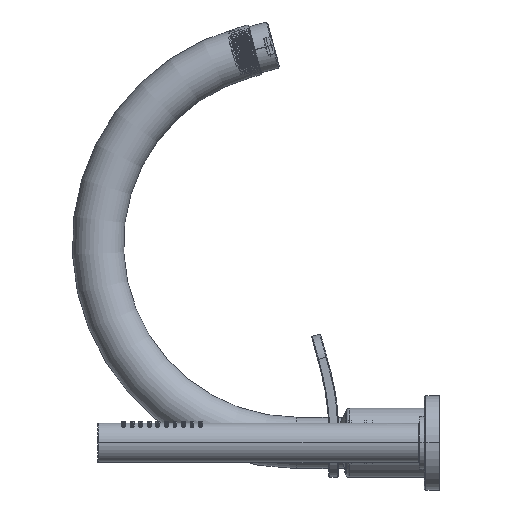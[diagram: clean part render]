
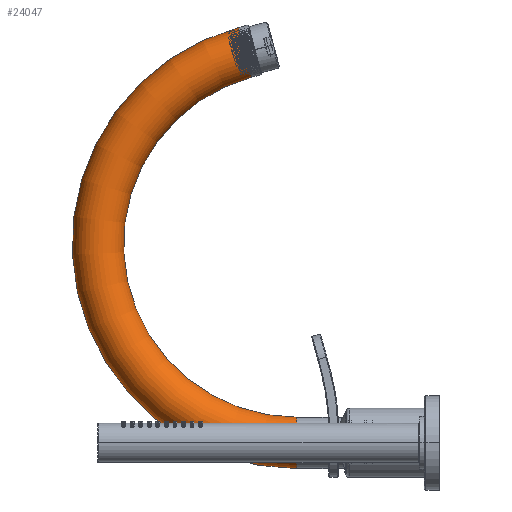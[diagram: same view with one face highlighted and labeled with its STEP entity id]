
A CAD part, left-side view. The second image highlights one B-rep face of the part: STEP entity #24047.
In plain terms, the highlighted toroidal (fillet/blend) face has major radius 116 mm and minor radius 15 mm.
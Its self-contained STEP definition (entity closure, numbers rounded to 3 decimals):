
#20752=CARTESIAN_POINT('',(0.,21.,0.));
#20753=DIRECTION('',(0.,1.,0.));
#20754=DIRECTION('',(-1.,0.,0.));
#20755=AXIS2_PLACEMENT_3D('',#20752,#20753,#20754);
#20757=CARTESIAN_POINT('',(116.,21.,0.));
#20758=DIRECTION('',(0.,0.,-1.));
#20759=DIRECTION('',(-1.,0.,0.));
#20760=AXIS2_PLACEMENT_3D('',#20757,#20758,#20759);
#20767=CARTESIAN_POINT('',(116.,21.,0.));
#20768=DIRECTION('',(0.,0.,-1.));
#20769=DIRECTION('',(-1.,0.,0.));
#20770=AXIS2_PLACEMENT_3D('',#20767,#20768,#20769);
#20819=CARTESIAN_POINT('',(228.047,51.023,0.));
#20820=DIRECTION('',(0.259,-0.966,0.));
#20821=DIRECTION('',(0.966,0.259,0.));
#20822=AXIS2_PLACEMENT_3D('',#20819,#20820,#20821);
#23804=CARTESIAN_POINT('',(-15.,21.,0.));
#23805=CARTESIAN_POINT('',(15.,21.,0.));
#23806=VERTEX_POINT('',#23804);
#23807=VERTEX_POINT('',#23805);
#23808=CARTESIAN_POINT('',(242.536,54.905,0.));
#23809=CARTESIAN_POINT('',(213.559,47.141,0.));
#23810=VERTEX_POINT('',#23808);
#23811=VERTEX_POINT('',#23809);
#24033=CARTESIAN_POINT('',(116.,21.,0.));
#24034=DIRECTION('',(0.,0.,-1.));
#24035=DIRECTION('',(1.,0.,0.));
#24036=AXIS2_PLACEMENT_3D('',#24033,#24034,#24035);
#24037=TOROIDAL_SURFACE('',#24036,116.,15.);
#24038=ORIENTED_EDGE('',*,*,#24027,.F.);
#24040=ORIENTED_EDGE('',*,*,#24039,.T.);
#24042=ORIENTED_EDGE('',*,*,#24041,.T.);
#24044=ORIENTED_EDGE('',*,*,#24043,.F.);
#24045=EDGE_LOOP('',(#24038,#24040,#24042,#24044));
#24046=FACE_OUTER_BOUND('',#24045,.F.);
#24047=ADVANCED_FACE('',(#24046),#24037,.T.);
#20756=CIRCLE('',#20755,15.);
#20761=CIRCLE('',#20760,131.);
#20771=CIRCLE('',#20770,101.);
#20823=CIRCLE('',#20822,15.);
#24027=EDGE_CURVE('',#23806,#23807,#20756,.T.);
#24039=EDGE_CURVE('',#23806,#23810,#20761,.T.);
#24041=EDGE_CURVE('',#23810,#23811,#20823,.T.);
#24043=EDGE_CURVE('',#23807,#23811,#20771,.T.);
